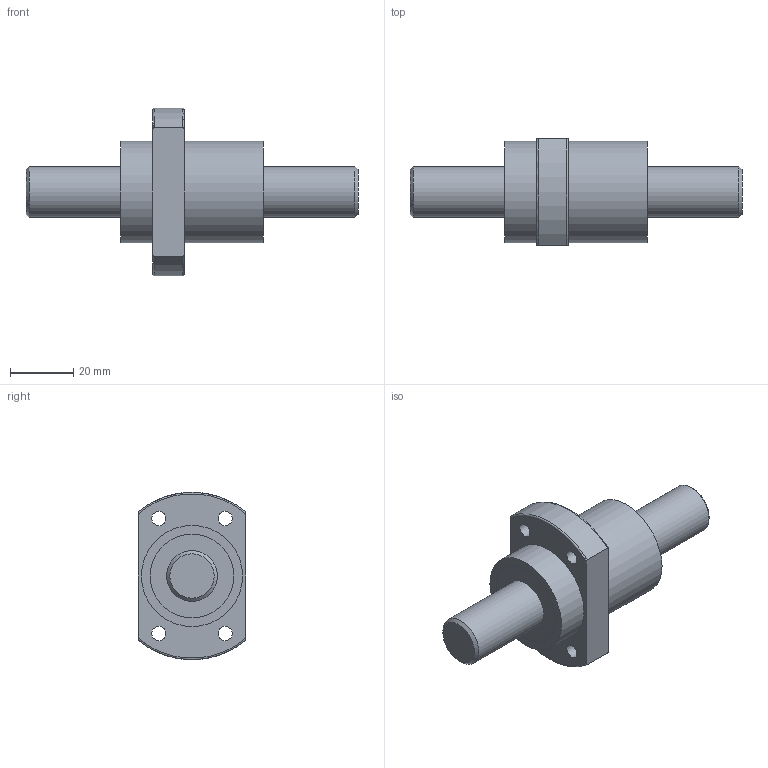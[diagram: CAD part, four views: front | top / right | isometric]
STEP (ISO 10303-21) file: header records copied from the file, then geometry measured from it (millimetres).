
FILE_DESCRIPTION(/* description */ (''),/* implementation_level */ '2;1');
FILE_NAME(/* name */ 'SFY1616.stp',/* time_stamp */ '2013-11-01T09:46:05+08:00',/* author */ (''),/* organization */ (''),/* preprocessor_version */ 'ST-DEVELOPER v11',/* originating_system */ 'SIEMENS UGS NX 6.0',/* authorisation */ '');
FILE_SCHEMA (('CONFIG_CONTROL_DESIGN'));
Length unit declared in the file: millimetre
Products named in the file (1): fann640Fk5mr
Bounding box: 105 x 34 x 53 mm (x, y, z)
Volume: 56213.7 mm3; surface area: 20251.3 mm2
Topology: 4 solids, 4 shells, 52 faces, 101 edges, 69 vertices
Faces by surface type: cylinder 24, plane 22, torus 4, cone 2
Full cylindrical faces by diameter (mm): 4.5 x4, 16 x4, 24 x4, 26.5 x4, 28 x4, 32 x2
Entity records: 1400 total; most frequent: CARTESIAN_POINT 317, DIRECTION 222, ORIENTED_EDGE 140, AXIS2_PLACEMENT_3D 107, EDGE_LOOP 102, FACE_BOUND 92, EDGE_CURVE 70, VERTEX_POINT 62
